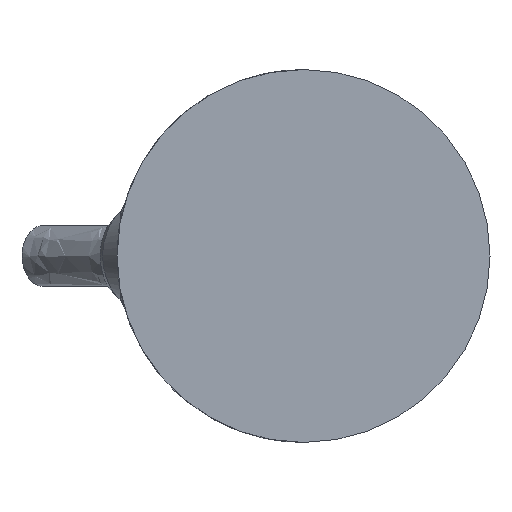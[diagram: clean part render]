
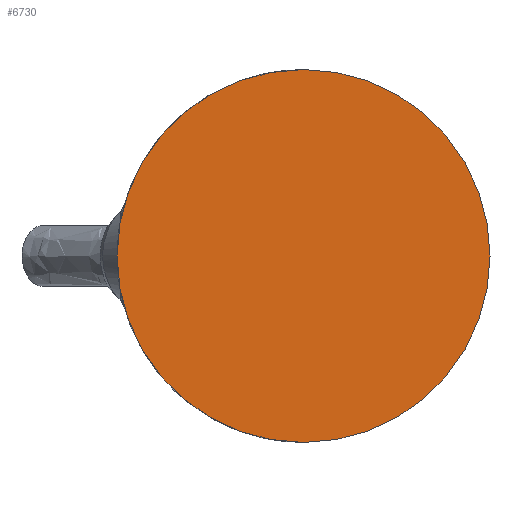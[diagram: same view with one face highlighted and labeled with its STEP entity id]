
A CAD part, front view. The second image highlights one B-rep face of the part: STEP entity #6730.
In plain terms, the highlighted planar face has unit normal (0, -1, 0).
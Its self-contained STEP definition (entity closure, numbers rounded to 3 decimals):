
#11 = DIRECTION ( 'NONE',  ( 0., 0., 1. ) ) ;
#208 = PLANE ( 'NONE',  #12516 ) ;
#800 = FACE_OUTER_BOUND ( 'NONE', #3620, .T. ) ;
#931 = CARTESIAN_POINT ( 'NONE',  ( 0., 0., 18.25 ) ) ;
#1210 = CARTESIAN_POINT ( 'NONE',  ( 0., 0., 0. ) ) ;
#1374 = VERTEX_POINT ( 'NONE', #931 ) ;
#2044 = AXIS2_PLACEMENT_3D ( 'NONE', #9686, #10642, #11 ) ;
#2288 = VERTEX_POINT ( 'NONE', #9311 ) ;
#3620 = EDGE_LOOP ( 'NONE', ( #11090, #7604 ) ) ;
#4441 = CIRCLE ( 'NONE', #2044, 18.25 ) ;
#6491 = DIRECTION ( 'NONE',  ( 0., 0., 1. ) ) ;
#6730 = ADVANCED_FACE ( 'NONE', ( #800 ), #208, .F. ) ;
#7084 = AXIS2_PLACEMENT_3D ( 'NONE', #8653, #8830, #13042 ) ;
#7465 = EDGE_CURVE ( 'NONE', #2288, #1374, #4441, .T. ) ;
#7559 = DIRECTION ( 'NONE',  ( 0., 1., 0. ) ) ;
#7604 = ORIENTED_EDGE ( 'NONE', *, *, #12980, .F. ) ;
#8653 = CARTESIAN_POINT ( 'NONE',  ( 0., 0., 0. ) ) ;
#8830 = DIRECTION ( 'NONE',  ( 0., 1., 0. ) ) ;
#9311 = CARTESIAN_POINT ( 'NONE',  ( 0., 0., -18.25 ) ) ;
#9686 = CARTESIAN_POINT ( 'NONE',  ( 0., 0., 0. ) ) ;
#10642 = DIRECTION ( 'NONE',  ( 0., 1., 0. ) ) ;
#11090 = ORIENTED_EDGE ( 'NONE', *, *, #7465, .F. ) ;
#12130 = CIRCLE ( 'NONE', #7084, 18.25 ) ;
#12516 = AXIS2_PLACEMENT_3D ( 'NONE', #1210, #7559, #6491 ) ;
#12980 = EDGE_CURVE ( 'NONE', #1374, #2288, #12130, .T. ) ;
#13042 = DIRECTION ( 'NONE',  ( 0., 0., 1. ) ) ;
